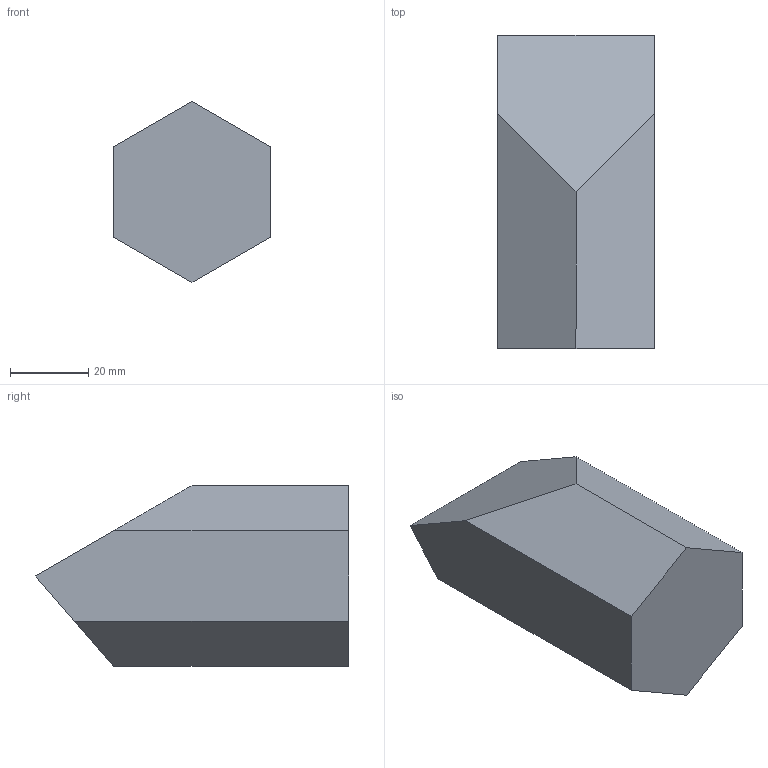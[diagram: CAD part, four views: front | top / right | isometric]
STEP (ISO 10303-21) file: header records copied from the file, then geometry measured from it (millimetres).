
FILE_DESCRIPTION(/* description */ ('','CAx-IF Rec.Pracs.---Representation and Presentation of Product Manufacturing Information (PMI)---4.0---2014-10-13'),/* implementation_level */ '2;1');
FILE_NAME(/* name */ '4.stp',/* time_stamp */ '2026-06-27T16:24:17+01:00',/* author */ ('hunte'),/* organization */ (''),/* preprocessor_version */ 'ST-DEVELOPER v20',/* originating_system */ 'Autodesk Inventor 2024',/* authorisation */ '');
FILE_SCHEMA (('AP242_MANAGED_MODEL_BASED_3D_ENGINEERING_MIM_LF { 1 0 10303 442 1 1 4 }'));
Length unit declared in the file: millimetre
Products named in the file (1): 4
Bounding box: 40 x 80 x 46.19 mm (x, y, z)
Volume: 94685.4 mm3; surface area: 12348.1 mm2
Topology: 1 solids, 1 shells, 9 faces, 21 edges, 14 vertices
Faces by surface type: plane 9
Entity records: 386 total; most frequent: DIRECTION 67, CARTESIAN_POINT 62, ORIENTED_EDGE 42, AXIS2_PLACEMENT_3D 23, LINE 21, VECTOR 21, EDGE_CURVE 21, VERTEX_POINT 14
